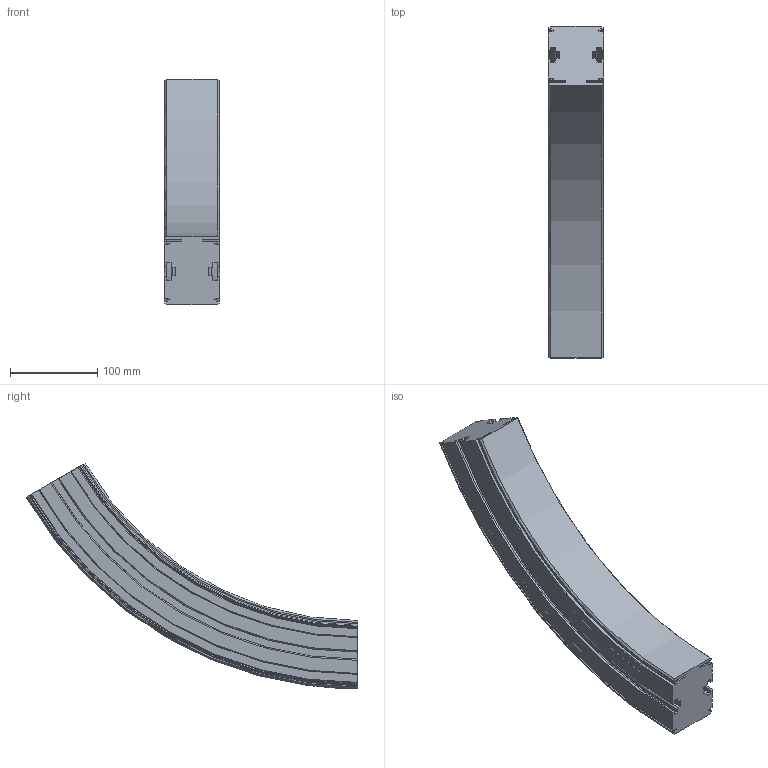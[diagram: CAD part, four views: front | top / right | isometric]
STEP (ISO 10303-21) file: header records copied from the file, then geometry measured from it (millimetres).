
FILE_DESCRIPTION(/* description */ ('VERTIKALKURVA S620 R400'),/* implementation_level */ '2;1');
FILE_NAME(/* name */ '\\carryline.intra\privat\users\mathias\Desktop\Tillfälliga filer\620-5645+620-2000-NER-01.stp',/* time_stamp */ '2018-12-05T15:59:04+01:00',/* author */ ('MD'),/* organization */ ('CARRYLINE'),/* preprocessor_version */ 'ST-DEVELOPER v17',/* originating_system */ 'Autodesk Inventor 2018',/* authorisation */ '');
FILE_SCHEMA (('AUTOMOTIVE_DESIGN { 1 0 10303 214 3 1 1 }'));
Length unit declared in the file: millimetre
Products named in the file (1): 620-5645+620-2000-NER-01
Bounding box: 64 x 379.32 x 258 mm (x, y, z)
Volume: 1867866.5 mm3; surface area: 207453.3 mm2
Topology: 1 solids, 1 shells, 149 faces, 426 edges, 284 vertices
Faces by surface type: plane 54, cylinder 37, torus 28, cone 16, bspline 14
Entity records: 9542 total; most frequent: CARTESIAN_POINT 5522, ORIENTED_EDGE 852, DIRECTION 836, EDGE_CURVE 426, AXIS2_PLACEMENT_3D 315, VERTEX_POINT 284, LINE 206, VECTOR 206
